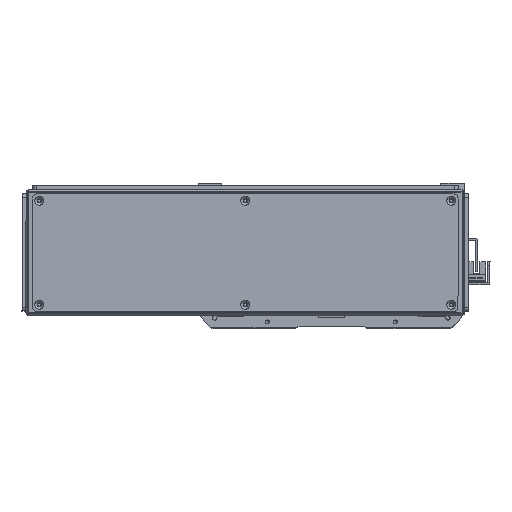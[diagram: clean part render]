
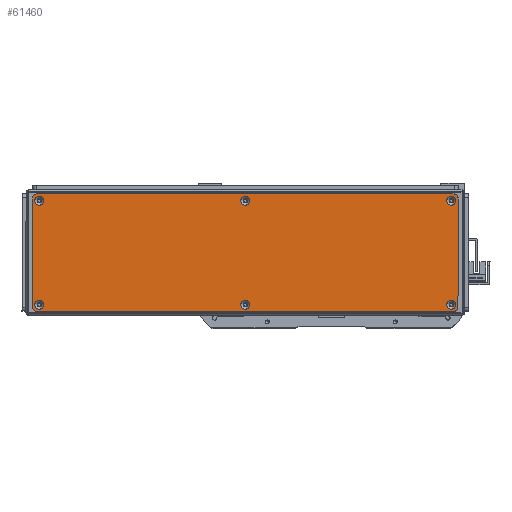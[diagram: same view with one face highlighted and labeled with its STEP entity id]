
A CAD part, front view. The second image highlights one B-rep face of the part: STEP entity #61460.
In plain terms, the highlighted planar face has unit normal (0, -1, 0).
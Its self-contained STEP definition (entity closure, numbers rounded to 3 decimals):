
#2244=FACE_BOUND('',#10044,.T.);
#2245=FACE_BOUND('',#10045,.T.);
#2246=FACE_BOUND('',#10046,.T.);
#2247=FACE_BOUND('',#10047,.T.);
#2248=FACE_BOUND('',#10048,.T.);
#2249=FACE_BOUND('',#10049,.T.);
#3484=CIRCLE('',#66098,3.45);
#3487=CIRCLE('',#66103,3.45);
#3490=CIRCLE('',#66108,3.45);
#3493=CIRCLE('',#66113,3.45);
#3496=CIRCLE('',#66118,3.45);
#3499=CIRCLE('',#66123,3.45);
#3502=CIRCLE('',#66128,3.);
#3504=CIRCLE('',#66131,3.);
#3505=CIRCLE('',#66132,3.);
#3506=CIRCLE('',#66133,3.);
#6542=FACE_OUTER_BOUND('',#10043,.T.);
#10043=EDGE_LOOP('',(#55444,#55445,#55446,#55447,#55448,#55449,#55450,#55451));
#10044=EDGE_LOOP('',(#55452));
#10045=EDGE_LOOP('',(#55453));
#10046=EDGE_LOOP('',(#55454));
#10047=EDGE_LOOP('',(#55455));
#10048=EDGE_LOOP('',(#55456));
#10049=EDGE_LOOP('',(#55457));
#17151=LINE('',#100749,#24304);
#17152=LINE('',#100753,#24305);
#17153=LINE('',#100757,#24306);
#17154=LINE('',#100760,#24307);
#24304=VECTOR('',#81651,10.);
#24305=VECTOR('',#81654,10.);
#24306=VECTOR('',#81657,10.);
#24307=VECTOR('',#81660,10.);
#30061=VERTEX_POINT('',#100679);
#30064=VERTEX_POINT('',#100689);
#30067=VERTEX_POINT('',#100699);
#30070=VERTEX_POINT('',#100709);
#30073=VERTEX_POINT('',#100719);
#30076=VERTEX_POINT('',#100729);
#30079=VERTEX_POINT('',#100739);
#30080=VERTEX_POINT('',#100740);
#30083=VERTEX_POINT('',#100748);
#30084=VERTEX_POINT('',#100750);
#30085=VERTEX_POINT('',#100752);
#30086=VERTEX_POINT('',#100754);
#30087=VERTEX_POINT('',#100756);
#30088=VERTEX_POINT('',#100758);
#38546=EDGE_CURVE('',#30061,#30061,#3484,.T.);
#38551=EDGE_CURVE('',#30064,#30064,#3487,.T.);
#38556=EDGE_CURVE('',#30067,#30067,#3490,.T.);
#38561=EDGE_CURVE('',#30070,#30070,#3493,.T.);
#38566=EDGE_CURVE('',#30073,#30073,#3496,.T.);
#38571=EDGE_CURVE('',#30076,#30076,#3499,.T.);
#38576=EDGE_CURVE('',#30079,#30080,#3502,.T.);
#38580=EDGE_CURVE('',#30079,#30083,#17151,.T.);
#38581=EDGE_CURVE('',#30084,#30083,#3504,.T.);
#38582=EDGE_CURVE('',#30084,#30085,#17152,.T.);
#38583=EDGE_CURVE('',#30086,#30085,#3505,.T.);
#38584=EDGE_CURVE('',#30086,#30087,#17153,.T.);
#38585=EDGE_CURVE('',#30088,#30087,#3506,.T.);
#38586=EDGE_CURVE('',#30088,#30080,#17154,.T.);
#55444=ORIENTED_EDGE('',*,*,#38576,.F.);
#55445=ORIENTED_EDGE('',*,*,#38580,.T.);
#55446=ORIENTED_EDGE('',*,*,#38581,.F.);
#55447=ORIENTED_EDGE('',*,*,#38582,.T.);
#55448=ORIENTED_EDGE('',*,*,#38583,.F.);
#55449=ORIENTED_EDGE('',*,*,#38584,.T.);
#55450=ORIENTED_EDGE('',*,*,#38585,.F.);
#55451=ORIENTED_EDGE('',*,*,#38586,.T.);
#55452=ORIENTED_EDGE('',*,*,#38546,.T.);
#55453=ORIENTED_EDGE('',*,*,#38551,.T.);
#55454=ORIENTED_EDGE('',*,*,#38556,.T.);
#55455=ORIENTED_EDGE('',*,*,#38561,.T.);
#55456=ORIENTED_EDGE('',*,*,#38566,.T.);
#55457=ORIENTED_EDGE('',*,*,#38571,.T.);
#58437=PLANE('',#66130);
#61460=ADVANCED_FACE('',(#6542,#2244,#2245,#2246,#2247,#2248,#2249),#58437,
 .T.);
#66098=AXIS2_PLACEMENT_3D('',#100680,#81571,#81572);
#66103=AXIS2_PLACEMENT_3D('',#100690,#81583,#81584);
#66108=AXIS2_PLACEMENT_3D('',#100700,#81595,#81596);
#66113=AXIS2_PLACEMENT_3D('',#100710,#81607,#81608);
#66118=AXIS2_PLACEMENT_3D('',#100720,#81619,#81620);
#66123=AXIS2_PLACEMENT_3D('',#100730,#81631,#81632);
#66128=AXIS2_PLACEMENT_3D('',#100741,#81643,#81644);
#66130=AXIS2_PLACEMENT_3D('',#100747,#81649,#81650);
#66131=AXIS2_PLACEMENT_3D('',#100751,#81652,#81653);
#66132=AXIS2_PLACEMENT_3D('',#100755,#81655,#81656);
#66133=AXIS2_PLACEMENT_3D('',#100759,#81658,#81659);
#81571=DIRECTION('center_axis',(0.,1.,0.));
#81572=DIRECTION('ref_axis',(1.,0.,0.));
#81583=DIRECTION('center_axis',(0.,1.,0.));
#81584=DIRECTION('ref_axis',(1.,0.,0.));
#81595=DIRECTION('center_axis',(0.,1.,0.));
#81596=DIRECTION('ref_axis',(1.,0.,0.));
#81607=DIRECTION('center_axis',(0.,1.,0.));
#81608=DIRECTION('ref_axis',(1.,0.,0.));
#81619=DIRECTION('center_axis',(0.,1.,0.));
#81620=DIRECTION('ref_axis',(1.,0.,0.));
#81631=DIRECTION('center_axis',(0.,1.,0.));
#81632=DIRECTION('ref_axis',(1.,0.,0.));
#81643=DIRECTION('center_axis',(0.,1.,0.));
#81644=DIRECTION('ref_axis',(-0.707,0.,0.707));
#81649=DIRECTION('center_axis',(0.,-1.,0.));
#81650=DIRECTION('ref_axis',(0.,0.,-1.));
#81651=DIRECTION('',(0.,0.,-1.));
#81652=DIRECTION('center_axis',(0.,1.,0.));
#81653=DIRECTION('ref_axis',(-0.707,0.,-0.707));
#81654=DIRECTION('',(1.,0.,0.));
#81655=DIRECTION('center_axis',(0.,1.,0.));
#81656=DIRECTION('ref_axis',(0.707,0.,-0.707));
#81657=DIRECTION('',(0.,0.,1.));
#81658=DIRECTION('center_axis',(0.,1.,0.));
#81659=DIRECTION('ref_axis',(0.707,0.,0.707));
#81660=DIRECTION('',(-1.,0.,0.));
#100679=CARTESIAN_POINT('',(151.05,-1.5,39.));
#100680=CARTESIAN_POINT('Origin',(154.5,-1.5,39.));
#100689=CARTESIAN_POINT('',(-3.45,-1.5,39.));
#100690=CARTESIAN_POINT('Origin',(0.,-1.5,39.));
#100699=CARTESIAN_POINT('',(-157.95,-1.5,39.));
#100700=CARTESIAN_POINT('Origin',(-154.5,-1.5,39.));
#100709=CARTESIAN_POINT('',(-157.95,-1.5,-39.));
#100710=CARTESIAN_POINT('Origin',(-154.5,-1.5,-39.));
#100719=CARTESIAN_POINT('',(-3.45,-1.5,-39.));
#100720=CARTESIAN_POINT('Origin',(0.,-1.5,-39.));
#100729=CARTESIAN_POINT('',(151.05,-1.5,-39.));
#100730=CARTESIAN_POINT('Origin',(154.5,-1.5,-39.));
#100739=CARTESIAN_POINT('',(-159.5,-1.5,41.));
#100740=CARTESIAN_POINT('',(-156.5,-1.5,44.));
#100741=CARTESIAN_POINT('Origin',(-156.5,-1.5,41.));
#100747=CARTESIAN_POINT('Origin',(0.,-1.5,0.));
#100748=CARTESIAN_POINT('',(-159.5,-1.5,-41.));
#100749=CARTESIAN_POINT('',(-159.5,-1.5,44.));
#100750=CARTESIAN_POINT('',(-156.5,-1.5,-44.));
#100751=CARTESIAN_POINT('Origin',(-156.5,-1.5,-41.));
#100752=CARTESIAN_POINT('',(156.5,-1.5,-44.));
#100753=CARTESIAN_POINT('',(-159.5,-1.5,-44.));
#100754=CARTESIAN_POINT('',(159.5,-1.5,-41.));
#100755=CARTESIAN_POINT('Origin',(156.5,-1.5,-41.));
#100756=CARTESIAN_POINT('',(159.5,-1.5,41.));
#100757=CARTESIAN_POINT('',(159.5,-1.5,-44.));
#100758=CARTESIAN_POINT('',(156.5,-1.5,44.));
#100759=CARTESIAN_POINT('Origin',(156.5,-1.5,41.));
#100760=CARTESIAN_POINT('',(159.5,-1.5,44.));
